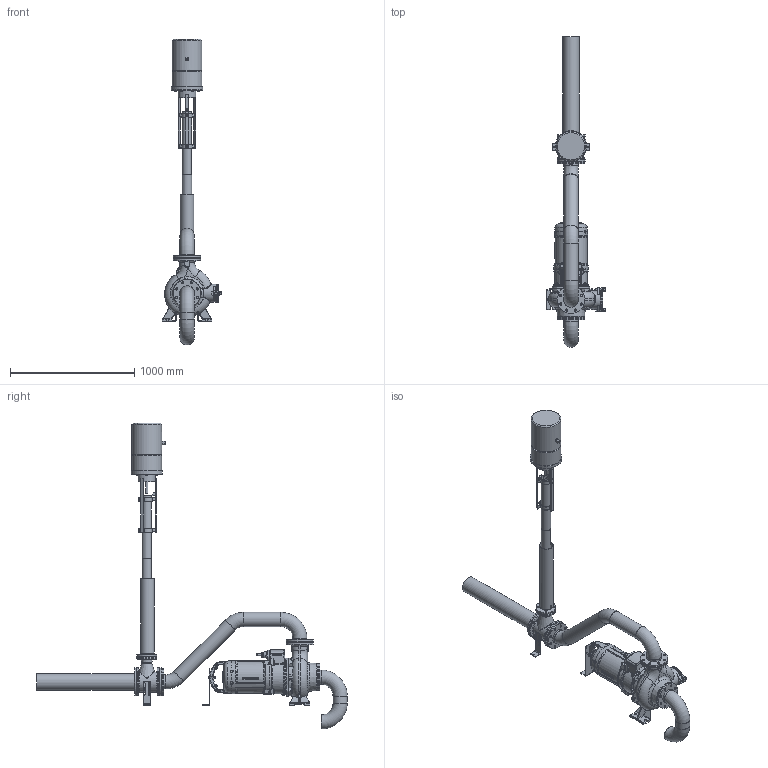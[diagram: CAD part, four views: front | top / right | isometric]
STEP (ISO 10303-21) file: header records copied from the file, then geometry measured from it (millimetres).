
FILE_DESCRIPTION(/* description */ (''),/* implementation_level */ '2;1');
FILE_NAME(/* name */ 'H:\3D\Projekte\@Wirbeljet\700 Amajet_2021_step\SewerAmajet_L_Gully_suction_KA_16.stp',/* time_stamp */ '2021-04-12T22:43:48+02:00',/* author */ ('emmrpat'),/* organization */ (''),/* preprocessor_version */ 'ST-DEVELOPER v18',/* originating_system */ 'Autodesk Inventor 2020',/* authorisation */ '');
FILE_SCHEMA (('AUTOMOTIVE_DESIGN { 1 0 10303 214 3 1 1 }'));
Length unit declared in the file: millimetre
Products named in the file (67): SewerAmajet_L_Gully_suction_KA_16; Aufstellung_01; KRT_100-250_komplett; Sewatec_100-250_0W383895_01; Putzlochdeckel_Z065469; ISO 4032 - M16; DIN 188 - M16 x 70; UG155595214_01; ug1004874zmn001_01; ug1004383zmn001_01; ug1510147zmk001_01_BODY; ug1510095zmk001_01; ug1510137zmk001_01; ug1510136zmk001_01; ug1510110zmk001_01; UG154735011ZMM001_02; UG153885001ZMM001_01; ug1012584zmn001_01; ug1002091zmn001_01; UG154911611ZMM001_04; ISO 4032 - M16_1; ISO 7089 -  16; DIN 835 - M16 x 50; Anschlußrohr_Teil_71-14-01; Bogen DN100 BA3_45°; Rohr_DN100_585mm; Rohr_DN100_300mm; Stützwinkel_neu_01; Stützwinkel_neu; Klemmblech_neu; ISO 4032 - M10; ISO 7089 - 10 - 140 HV; ISO 4017 - M10 x 55; Dichtung1_DN100_5mm; Flansch_0W308059; 0W308365_Vari_01_Duese; Strahlrohr_133mm_800mm; 0W308365_Vari_01_Duese_1; Dichtung_DN100_5mm; Dichtung_DN65_4mm_110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
Assembly tree (132 placements, depth 5):
  SewerAmajet_L_Gully_suction_KA_16
    Aufstellung_01
      KRT_100-250_komplett
        Sewatec_100-250_0W383895_01
        Putzlochdeckel_Z065469
        ISO 4032 - M16  x2
        ISO 7089 -  16  x2
        DIN 188 - M16 x 70  x2
      UG155595214_01
        ug1004874zmn001_01  x4
        ug1004383zmn001_01  x2
        ug1510147zmk001_01_BODY
          ug1510095zmk001_01
          ug1510137zmk001_01  x12
          ug1510136zmk001_01
          ug1510110zmk001_01
        UG154735011ZMM001_02
        UG153885001ZMM001_01
        ug1012584zmn001_01
        ug1002091zmn001_01
        UG154911611ZMM001_04
        ISO 4032 - M16_1  x4
        ISO 7089 -  16  x4
        DIN 835 - M16 x 50  x4
    Dichtung1_DN100_5mm  x3
    Anschlußrohr_Teil_71-14-01
      Bogen DN100 BA3
      Bogen DN100 BA3_45°  x2
      Losflansch_DN100_PN10_12mm  x2
      Vorschweißbördel_30mm_DN100_PN10  x2
      Rohr_DN100_585mm
      Rohr_DN100_300mm
    Stützwinkel_neu_01
      Stützwinkel_neu
      Klemmblech_neu
      ISO 4032 - M10  x2
      ISO 7089 - 10 - 140 HV  x2
      ISO 4017 - M10 x 55  x2
    Flansch_0W308059
    Dichtung_DN100_5mm  x2
    0W308365_Vari_01_Duese
    Strahlrohr_133mm_800mm
    0W308365_Vari_01_Duese_1
    Dichtung_DN65_4mm_110
    0W308366_800mm_Belueftung
      0W308366_800mm_Rohr
      Vorschweißflansch_DN65_PN6
    Kabelschutzrohr_01
    0W382247_Mischkammer
    Verstelllasche  x2
    ISO 7089 -  8  x4
    ISO 4762  - M8 x 16  x4
    ‎SLGS233-20-024
      Vorschweißbördel_30mm_DN100_PN10
      Bogen DN100 BA3  x2
      Rohr_DN100_56mm
      Losflansch_DN100_PN10_12mm
    Hubmagnet
      01
      06
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Bounding box: 480 x 2500.57 x 2463.65 mm (x, y, z)
Volume: 46159955 mm3; surface area: 7655062.5 mm2
Topology: 126 solids, 126 shells, 3652 faces, 8765 edges, 5406 vertices
Faces by surface type: plane 1229, cylinder 959, bspline 715, torus 382, cone 234, sphere 133
Full cylindrical faces by diameter (mm): 3 x12, 3.05 x2, 3.3 x1, 4 x12, 5 x12, 6 x12, 6.647 x6, 6.8 x1, 7 x24, 8 x15, 8.376 x4, 8.4 x4, 8.5 x6, 9.5 x6, 10 x10, 10.5 x2, 11 x10, 11.5 x8, 12 x8, 13 x8, 13.835 x6, 14 x4, 14.63 x4, 15.25 x1, 16 x25, 16.662 x1, 17 x6, 17.1 x1, 17.5 x4, 18 x61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
Entity records: 133873 total; most frequent: CARTESIAN_POINT 60337, ORIENTED_EDGE 14710, DIRECTION 14522, EDGE_CURVE 7355, AXIS2_PLACEMENT_3D 6065, VERTEX_POINT 4556, EDGE_LOOP 3471, CIRCLE 3329
